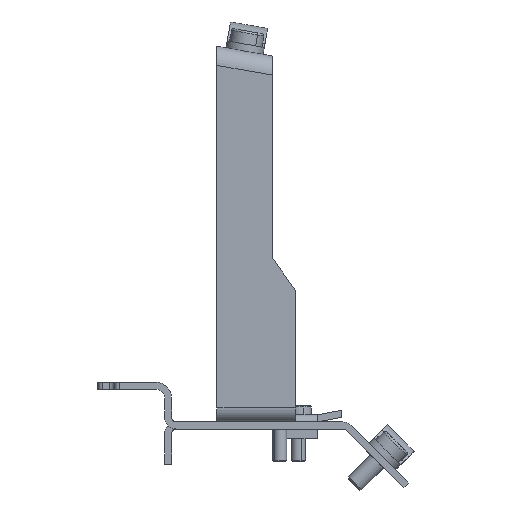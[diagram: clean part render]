
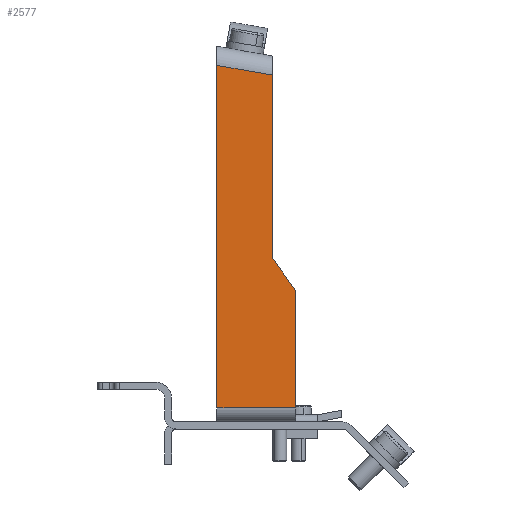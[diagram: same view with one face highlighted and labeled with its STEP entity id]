
A CAD part, left-side view. The second image highlights one B-rep face of the part: STEP entity #2577.
In plain terms, the highlighted planar face has unit normal (-1, 0, 0).
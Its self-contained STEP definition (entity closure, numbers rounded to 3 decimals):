
#415 = CARTESIAN_POINT ( 'NONE',  ( -35., 5., -8.134 ) ) ;
#454 = LINE ( 'NONE', #1914, #4527 ) ;
#590 = DIRECTION ( 'NONE',  ( 0., 0., 1. ) ) ;
#600 = ORIENTED_EDGE ( 'NONE', *, *, #4937, .F. ) ;
#753 = VERTEX_POINT ( 'NONE', #3834 ) ;
#1326 = VECTOR ( 'NONE', #2410, 1000. ) ;
#1394 = VECTOR ( 'NONE', #2703, 1000. ) ;
#1470 = FACE_OUTER_BOUND ( 'NONE', #3352, .T. ) ;
#1693 = CARTESIAN_POINT ( 'NONE',  ( -35., 0., -79. ) ) ;
#1770 = VERTEX_POINT ( 'NONE', #2637 ) ;
#1815 = CARTESIAN_POINT ( 'NONE',  ( -35., 16.75, -2. ) ) ;
#1841 = DIRECTION ( 'NONE',  ( 0., 0., -1. ) ) ;
#1863 = CARTESIAN_POINT ( 'NONE',  ( -35., 17.445, -5.939 ) ) ;
#1902 = LINE ( 'NONE', #1961, #5760 ) ;
#1914 = CARTESIAN_POINT ( 'NONE',  ( -35., 16.75, -2. ) ) ;
#1934 = VERTEX_POINT ( 'NONE', #1693 ) ;
#1961 = CARTESIAN_POINT ( 'NONE',  ( -35., 5., 0. ) ) ;
#2070 = ORIENTED_EDGE ( 'NONE', *, *, #2333, .T. ) ;
#2108 = EDGE_CURVE ( 'NONE', #4445, #753, #4645, .T. ) ;
#2265 = VERTEX_POINT ( 'NONE', #4074 ) ;
#2333 = EDGE_CURVE ( 'NONE', #2265, #1934, #2931, .T. ) ;
#2410 = DIRECTION ( 'NONE',  ( 0., 0.985, 0.174 ) ) ;
#2577 = ADVANCED_FACE ( 'NONE', ( #1470 ), #2891, .F. ) ;
#2637 = CARTESIAN_POINT ( 'NONE',  ( -35., 5., -47. ) ) ;
#2703 = DIRECTION ( 'NONE',  ( 0., -1., 0. ) ) ;
#2721 = EDGE_CURVE ( 'NONE', #1770, #4445, #1902, .T. ) ;
#2891 = PLANE ( 'NONE',  #3656 ) ;
#2931 = LINE ( 'NONE', #5828, #1394 ) ;
#2936 = VERTEX_POINT ( 'NONE', #3172 ) ;
#3172 = CARTESIAN_POINT ( 'NONE',  ( -35., 0., -54. ) ) ;
#3352 = EDGE_LOOP ( 'NONE', ( #5987, #5868, #600, #2070, #5715, #4093 ) ) ;
#3656 = AXIS2_PLACEMENT_3D ( 'NONE', #1815, #5008, #1841 ) ;
#3834 = CARTESIAN_POINT ( 'NONE',  ( -35., 16.75, -6.062 ) ) ;
#4074 = CARTESIAN_POINT ( 'NONE',  ( -35., 16.75, -79. ) ) ;
#4093 = ORIENTED_EDGE ( 'NONE', *, *, #4839, .T. ) ;
#4445 = VERTEX_POINT ( 'NONE', #415 ) ;
#4467 = DIRECTION ( 'NONE',  ( 0., 0.581, 0.814 ) ) ;
#4527 = VECTOR ( 'NONE', #4534, 1000. ) ;
#4534 = DIRECTION ( 'NONE',  ( 0., 0., 1. ) ) ;
#4632 = EDGE_CURVE ( 'NONE', #1934, #2936, #6290, .T. ) ;
#4645 = LINE ( 'NONE', #1863, #1326 ) ;
#4839 = EDGE_CURVE ( 'NONE', #2936, #1770, #5329, .T. ) ;
#4937 = EDGE_CURVE ( 'NONE', #2265, #753, #454, .T. ) ;
#5008 = DIRECTION ( 'NONE',  ( 1., 0., 0. ) ) ;
#5122 = DIRECTION ( 'NONE',  ( 0., 0., 1. ) ) ;
#5329 = LINE ( 'NONE', #6022, #6366 ) ;
#5715 = ORIENTED_EDGE ( 'NONE', *, *, #4632, .T. ) ;
#5760 = VECTOR ( 'NONE', #5122, 1000. ) ;
#5828 = CARTESIAN_POINT ( 'NONE',  ( -35., 16.75, -79. ) ) ;
#5835 = CARTESIAN_POINT ( 'NONE',  ( -35., 0., -2. ) ) ;
#5868 = ORIENTED_EDGE ( 'NONE', *, *, #2108, .T. ) ;
#5987 = ORIENTED_EDGE ( 'NONE', *, *, #2721, .T. ) ;
#6022 = CARTESIAN_POINT ( 'NONE',  ( -35., 5., -47. ) ) ;
#6140 = VECTOR ( 'NONE', #590, 1000. ) ;
#6290 = LINE ( 'NONE', #5835, #6140 ) ;
#6366 = VECTOR ( 'NONE', #4467, 1000. ) ;
